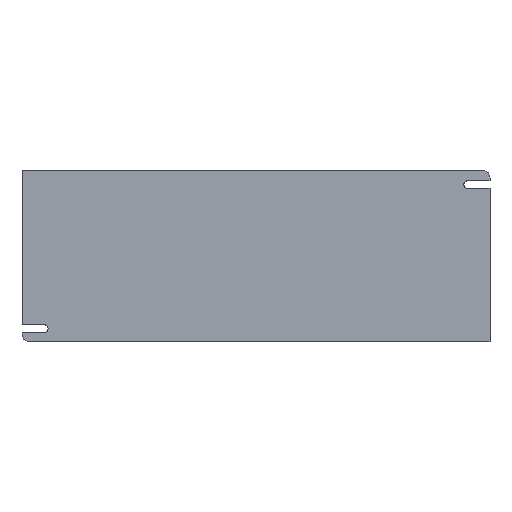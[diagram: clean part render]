
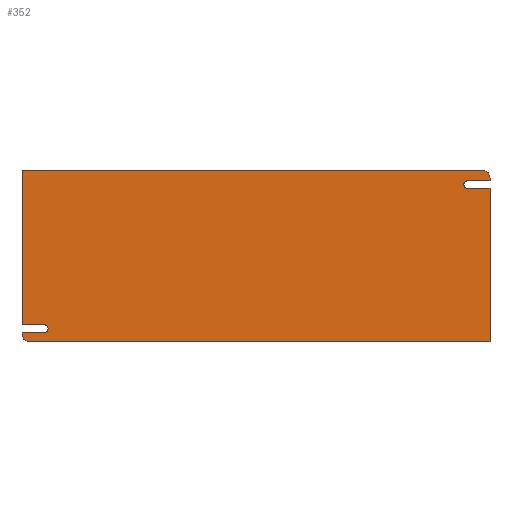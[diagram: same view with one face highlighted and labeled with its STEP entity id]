
A CAD part, front view. The second image highlights one B-rep face of the part: STEP entity #352.
In plain terms, the highlighted planar face has unit normal (0, -1, 0).
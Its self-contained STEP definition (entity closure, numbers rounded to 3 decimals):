
#19 = DIRECTION ( 'NONE',  ( 0., 0., -1. ) ) ;
#23 = EDGE_CURVE ( 'NONE', #920, #790, #499, .T. ) ;
#33 = EDGE_CURVE ( 'NONE', #982, #266, #619, .T. ) ;
#68 = VECTOR ( 'NONE', #1118, 1000. ) ;
#110 = VECTOR ( 'NONE', #376, 1000. ) ;
#111 = DIRECTION ( 'NONE',  ( 0., 0., -1. ) ) ;
#120 = ORIENTED_EDGE ( 'NONE', *, *, #1156, .T. ) ;
#135 = AXIS2_PLACEMENT_3D ( 'NONE', #1139, #1274, #209 ) ;
#143 = DIRECTION ( 'NONE',  ( 0., -1., 0. ) ) ;
#145 = EDGE_CURVE ( 'NONE', #882, #301, #700, .T. ) ;
#147 = AXIS2_PLACEMENT_3D ( 'NONE', #774, #1481, #1240 ) ;
#149 = ORIENTED_EDGE ( 'NONE', *, *, #483, .T. ) ;
#152 = ORIENTED_EDGE ( 'NONE', *, *, #1197, .T. ) ;
#173 = EDGE_CURVE ( 'NONE', #563, #301, #409, .T. ) ;
#174 = LINE ( 'NONE', #644, #68 ) ;
#186 = DIRECTION ( 'NONE',  ( -1., 0., 0. ) ) ;
#195 = CARTESIAN_POINT ( 'NONE',  ( 180., 0., 26.017 ) ) ;
#202 = ORIENTED_EDGE ( 'NONE', *, *, #544, .T. ) ;
#209 = DIRECTION ( 'NONE',  ( -1., 0., 0. ) ) ;
#222 = CIRCLE ( 'NONE', #147, 1.4 ) ;
#231 = DIRECTION ( 'NONE',  ( 0., 0., 1. ) ) ;
#242 = VECTOR ( 'NONE', #19, 1000. ) ;
#243 = VERTEX_POINT ( 'NONE', #340 ) ;
#251 = CARTESIAN_POINT ( 'NONE',  ( 3., 0., -30. ) ) ;
#262 = CARTESIAN_POINT ( 'NONE',  ( 180., 0., 28.917 ) ) ;
#266 = VERTEX_POINT ( 'NONE', #1344 ) ;
#301 = VERTEX_POINT ( 'NONE', #1327 ) ;
#326 = DIRECTION ( 'NONE',  ( -1., 0., 0. ) ) ;
#338 = VERTEX_POINT ( 'NONE', #1350 ) ;
#340 = CARTESIAN_POINT ( 'NONE',  ( 171.355, 0., 26.017 ) ) ;
#341 = AXIS2_PLACEMENT_3D ( 'NONE', #815, #1293, #231 ) ;
#352 = ADVANCED_FACE ( 'NONE', ( #1000 ), #1222, .F. ) ;
#366 = DIRECTION ( 'NONE',  ( 1., 0., 0. ) ) ;
#374 = CARTESIAN_POINT ( 'NONE',  ( 171.355, 0., 28.917 ) ) ;
#376 = DIRECTION ( 'NONE',  ( 1., 0., 0. ) ) ;
#379 = ORIENTED_EDGE ( 'NONE', *, *, #145, .F. ) ;
#380 = DIRECTION ( 'NONE',  ( 0., 1., 0. ) ) ;
#409 = LINE ( 'NONE', #1020, #1319 ) ;
#421 = DIRECTION ( 'NONE',  ( 0., 1., 0. ) ) ;
#431 = CARTESIAN_POINT ( 'NONE',  ( 180., 0., 26.017 ) ) ;
#449 = ORIENTED_EDGE ( 'NONE', *, *, #1085, .T. ) ;
#475 = DIRECTION ( 'NONE',  ( 0., 0., 1. ) ) ;
#483 = EDGE_CURVE ( 'NONE', #266, #1234, #665, .T. ) ;
#486 = VECTOR ( 'NONE', #326, 1000. ) ;
#487 = VERTEX_POINT ( 'NONE', #565 ) ;
#492 = CARTESIAN_POINT ( 'NONE',  ( 0., 0., 33. ) ) ;
#499 = LINE ( 'NONE', #1425, #788 ) ;
#516 = ORIENTED_EDGE ( 'NONE', *, *, #1422, .T. ) ;
#535 = CARTESIAN_POINT ( 'NONE',  ( 0., 0., 33. ) ) ;
#544 = EDGE_CURVE ( 'NONE', #734, #1301, #1444, .T. ) ;
#563 = VERTEX_POINT ( 'NONE', #930 ) ;
#564 = CIRCLE ( 'NONE', #614, 1.4 ) ;
#565 = CARTESIAN_POINT ( 'NONE',  ( 0., 0., -29.397 ) ) ;
#576 = CARTESIAN_POINT ( 'NONE',  ( 180., 0., 33. ) ) ;
#580 = AXIS2_PLACEMENT_3D ( 'NONE', #766, #380, #1235 ) ;
#585 = AXIS2_PLACEMENT_3D ( 'NONE', #1520, #827, #1490 ) ;
#588 = DIRECTION ( 'NONE',  ( 0., 0., -1. ) ) ;
#597 = EDGE_CURVE ( 'NONE', #243, #920, #1063, .T. ) ;
#614 = AXIS2_PLACEMENT_3D ( 'NONE', #1377, #421, #1296 ) ;
#619 = LINE ( 'NONE', #1447, #110 ) ;
#625 = CARTESIAN_POINT ( 'NONE',  ( 10.018, 0., -27.897 ) ) ;
#634 = CARTESIAN_POINT ( 'NONE',  ( 10.018, 0., -27.897 ) ) ;
#636 = ORIENTED_EDGE ( 'NONE', *, *, #597, .T. ) ;
#644 = CARTESIAN_POINT ( 'NONE',  ( 180., 0., 33. ) ) ;
#665 = CIRCLE ( 'NONE', #135, 1.4 ) ;
#700 = LINE ( 'NONE', #576, #1394 ) ;
#734 = VERTEX_POINT ( 'NONE', #1347 ) ;
#735 = ORIENTED_EDGE ( 'NONE', *, *, #884, .T. ) ;
#757 = DIRECTION ( 'NONE',  ( 0., 0., 1. ) ) ;
#766 = CARTESIAN_POINT ( 'NONE',  ( 0., 0., 33. ) ) ;
#774 = CARTESIAN_POINT ( 'NONE',  ( 171.355, 0., 27.517 ) ) ;
#785 = LINE ( 'NONE', #535, #1158 ) ;
#788 = VECTOR ( 'NONE', #757, 1000. ) ;
#790 = VERTEX_POINT ( 'NONE', #880 ) ;
#793 = CARTESIAN_POINT ( 'NONE',  ( 0., 0., -26.497 ) ) ;
#797 = EDGE_CURVE ( 'NONE', #734, #1104, #174, .T. ) ;
#815 = CARTESIAN_POINT ( 'NONE',  ( 177., 0., 30. ) ) ;
#827 = DIRECTION ( 'NONE',  ( 0., 1., 0. ) ) ;
#832 = ORIENTED_EDGE ( 'NONE', *, *, #855, .T. ) ;
#855 = EDGE_CURVE ( 'NONE', #790, #1086, #222, .T. ) ;
#880 = CARTESIAN_POINT ( 'NONE',  ( 169.955, 0., 27.517 ) ) ;
#882 = VERTEX_POINT ( 'NONE', #195 ) ;
#883 = DIRECTION ( 'NONE',  ( 0., 0., -1. ) ) ;
#884 = EDGE_CURVE ( 'NONE', #882, #243, #1051, .T. ) ;
#885 = ORIENTED_EDGE ( 'NONE', *, *, #797, .F. ) ;
#914 = VECTOR ( 'NONE', #366, 1000. ) ;
#918 = ORIENTED_EDGE ( 'NONE', *, *, #173, .T. ) ;
#920 = VERTEX_POINT ( 'NONE', #927 ) ;
#927 = CARTESIAN_POINT ( 'NONE',  ( 169.955, 0., 27.417 ) ) ;
#928 = ORIENTED_EDGE ( 'NONE', *, *, #1016, .F. ) ;
#930 = CARTESIAN_POINT ( 'NONE',  ( 3., 0., -33. ) ) ;
#952 = LINE ( 'NONE', #1194, #957 ) ;
#956 = DIRECTION ( 'NONE',  ( 1., 0., 0. ) ) ;
#957 = VECTOR ( 'NONE', #588, 1000. ) ;
#978 = CARTESIAN_POINT ( 'NONE',  ( 0., 0., -30. ) ) ;
#982 = VERTEX_POINT ( 'NONE', #793 ) ;
#1000 = FACE_OUTER_BOUND ( 'NONE', #1015, .T. ) ;
#1012 = CARTESIAN_POINT ( 'NONE',  ( 177., 0., 33. ) ) ;
#1015 = EDGE_LOOP ( 'NONE', ( #120, #1047, #918, #379, #735, #636, #1329, #832, #449, #885, #202, #928, #152, #1163, #149, #1134, #516, #1273 ) ) ;
#1016 = EDGE_CURVE ( 'NONE', #338, #1301, #1424, .T. ) ;
#1018 = VECTOR ( 'NONE', #186, 1000. ) ;
#1020 = CARTESIAN_POINT ( 'NONE',  ( 0., 0., -33. ) ) ;
#1043 = EDGE_CURVE ( 'NONE', #1215, #563, #1109, .T. ) ;
#1047 = ORIENTED_EDGE ( 'NONE', *, *, #1043, .T. ) ;
#1051 = LINE ( 'NONE', #431, #486 ) ;
#1063 = CIRCLE ( 'NONE', #585, 1.4 ) ;
#1071 = LINE ( 'NONE', #1245, #1018 ) ;
#1078 = CARTESIAN_POINT ( 'NONE',  ( 171.355, 0., 28.917 ) ) ;
#1085 = EDGE_CURVE ( 'NONE', #1086, #1104, #1429, .T. ) ;
#1086 = VERTEX_POINT ( 'NONE', #1078 ) ;
#1093 = LINE ( 'NONE', #625, #242 ) ;
#1104 = VERTEX_POINT ( 'NONE', #262 ) ;
#1109 = CIRCLE ( 'NONE', #1495, 3. ) ;
#1118 = DIRECTION ( 'NONE',  ( 0., 0., -1. ) ) ;
#1122 = CARTESIAN_POINT ( 'NONE',  ( 10.018, 0., -27.997 ) ) ;
#1134 = ORIENTED_EDGE ( 'NONE', *, *, #1308, .T. ) ;
#1139 = CARTESIAN_POINT ( 'NONE',  ( 8.618, 0., -27.897 ) ) ;
#1150 = CARTESIAN_POINT ( 'NONE',  ( 8.618, 0., -29.397 ) ) ;
#1156 = EDGE_CURVE ( 'NONE', #487, #1215, #952, .T. ) ;
#1158 = VECTOR ( 'NONE', #883, 1000. ) ;
#1163 = ORIENTED_EDGE ( 'NONE', *, *, #33, .T. ) ;
#1194 = CARTESIAN_POINT ( 'NONE',  ( 0., 0., 33. ) ) ;
#1197 = EDGE_CURVE ( 'NONE', #338, #982, #785, .T. ) ;
#1215 = VERTEX_POINT ( 'NONE', #978 ) ;
#1222 = PLANE ( 'NONE',  #580 ) ;
#1234 = VERTEX_POINT ( 'NONE', #634 ) ;
#1235 = DIRECTION ( 'NONE',  ( 0., 0., 1. ) ) ;
#1240 = DIRECTION ( 'NONE',  ( -1., 0., 0. ) ) ;
#1245 = CARTESIAN_POINT ( 'NONE',  ( 8.618, 0., -29.397 ) ) ;
#1273 = ORIENTED_EDGE ( 'NONE', *, *, #1412, .T. ) ;
#1274 = DIRECTION ( 'NONE',  ( 0., 1., 0. ) ) ;
#1293 = DIRECTION ( 'NONE',  ( 0., -1., 0. ) ) ;
#1296 = DIRECTION ( 'NONE',  ( -1., 0., 0. ) ) ;
#1297 = VECTOR ( 'NONE', #956, 1000. ) ;
#1298 = VERTEX_POINT ( 'NONE', #1122 ) ;
#1301 = VERTEX_POINT ( 'NONE', #1012 ) ;
#1308 = EDGE_CURVE ( 'NONE', #1234, #1298, #1093, .T. ) ;
#1319 = VECTOR ( 'NONE', #1362, 1000. ) ;
#1327 = CARTESIAN_POINT ( 'NONE',  ( 180., 0., -33. ) ) ;
#1329 = ORIENTED_EDGE ( 'NONE', *, *, #23, .T. ) ;
#1344 = CARTESIAN_POINT ( 'NONE',  ( 8.618, 0., -26.497 ) ) ;
#1347 = CARTESIAN_POINT ( 'NONE',  ( 180., 0., 30. ) ) ;
#1350 = CARTESIAN_POINT ( 'NONE',  ( 0., 0., 33. ) ) ;
#1362 = DIRECTION ( 'NONE',  ( 1., 0., 0. ) ) ;
#1377 = CARTESIAN_POINT ( 'NONE',  ( 8.618, 0., -27.997 ) ) ;
#1394 = VECTOR ( 'NONE', #111, 1000. ) ;
#1412 = EDGE_CURVE ( 'NONE', #1441, #487, #1071, .T. ) ;
#1422 = EDGE_CURVE ( 'NONE', #1298, #1441, #564, .T. ) ;
#1424 = LINE ( 'NONE', #492, #914 ) ;
#1425 = CARTESIAN_POINT ( 'NONE',  ( 169.955, 0., 27.417 ) ) ;
#1429 = LINE ( 'NONE', #374, #1297 ) ;
#1441 = VERTEX_POINT ( 'NONE', #1150 ) ;
#1444 = CIRCLE ( 'NONE', #341, 3. ) ;
#1447 = CARTESIAN_POINT ( 'NONE',  ( 0., 0., -26.497 ) ) ;
#1481 = DIRECTION ( 'NONE',  ( 0., 1., 0. ) ) ;
#1490 = DIRECTION ( 'NONE',  ( -1., 0., 0. ) ) ;
#1495 = AXIS2_PLACEMENT_3D ( 'NONE', #251, #143, #475 ) ;
#1520 = CARTESIAN_POINT ( 'NONE',  ( 171.355, 0., 27.417 ) ) ;
